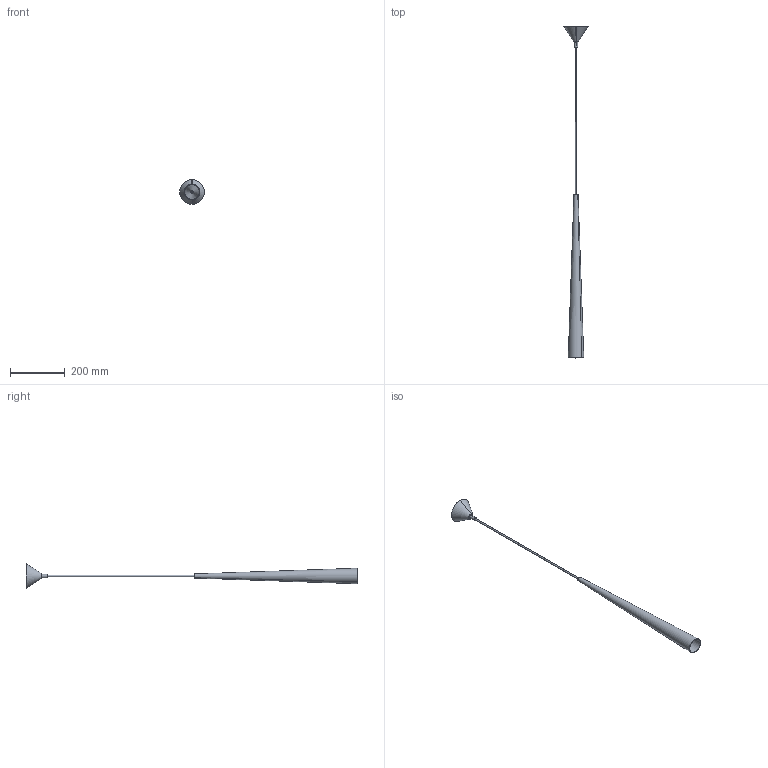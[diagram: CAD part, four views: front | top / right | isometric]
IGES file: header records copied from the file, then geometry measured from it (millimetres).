
Start section: SolidWorks IGES file using analytic representation for surfaces
Global section: file name: E:\....SOLID WORKS\LAMPY\Quebeck\quebeck 1.IGS; native system: SolidWorks 2016; preprocessor: SolidWorks 2016; author: ｣ukasz; date: 160727.112727; units: millimetre
Bounding box: 90 x 1217.31 x 90 mm (x, y, z)
Surface area: 161864.9 mm2 (no closed solid volume)
Topology: 0 solids, 0 shells, 19 faces, 528 edges, 528 vertices
Faces by surface type: revolution 12, bspline 7
